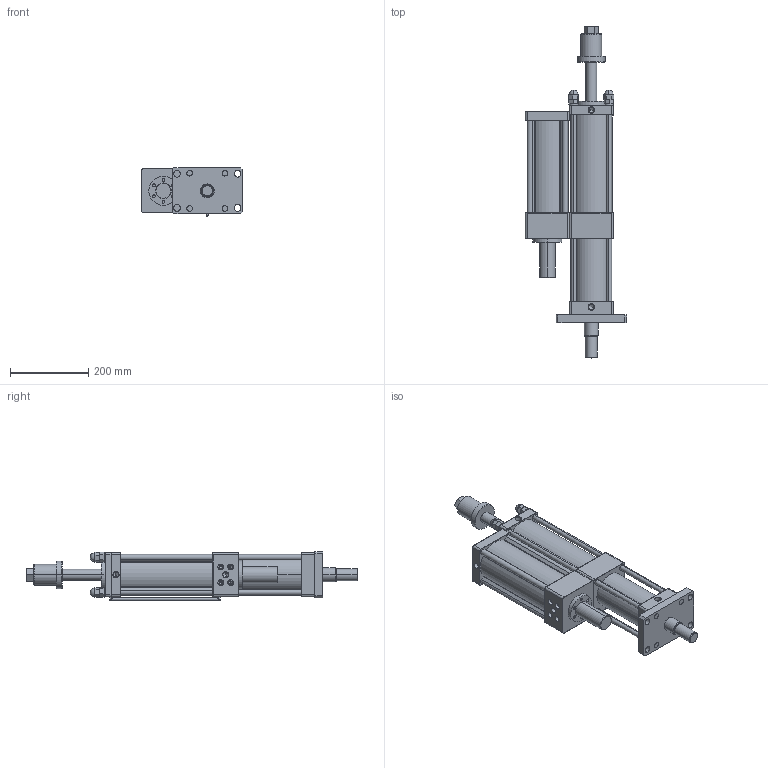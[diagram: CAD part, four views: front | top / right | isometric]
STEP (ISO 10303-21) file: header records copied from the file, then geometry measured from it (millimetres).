
FILE_DESCRIPTION (( 'STEP AP203' ), '1' );
FILE_NAME ('MPTD-80-100-15-5T-AJ50.STEP', '2017-01-04T02:07:47', ( 'WIN' ), ( '' ), 'SwSTEP 2.0', 'SolidWorks 2014', '' );
FILE_SCHEMA (( 'CONFIG_CONTROL_DESIGN' ));
Length unit declared in the file: millimetre
Products named in the file (1): MPTD-80-100-15-5T-AJ50
Bounding box: 258 x 847 x 124 mm (x, y, z)
Volume: 4716605.8 mm3; surface area: 903069.9 mm2
Topology: 5 solids, 13 shells, 566 faces, 1325 edges, 817 vertices
Faces by surface type: plane 303, cylinder 199, cone 56, torus 8
Entity records: 16018 total; most frequent: CARTESIAN_POINT 2959, DIRECTION 2823, ORIENTED_EDGE 2598, EDGE_CURVE 1299, AXIS2_PLACEMENT_3D 1049, VERTEX_POINT 817, VECTOR 725, LINE 725
